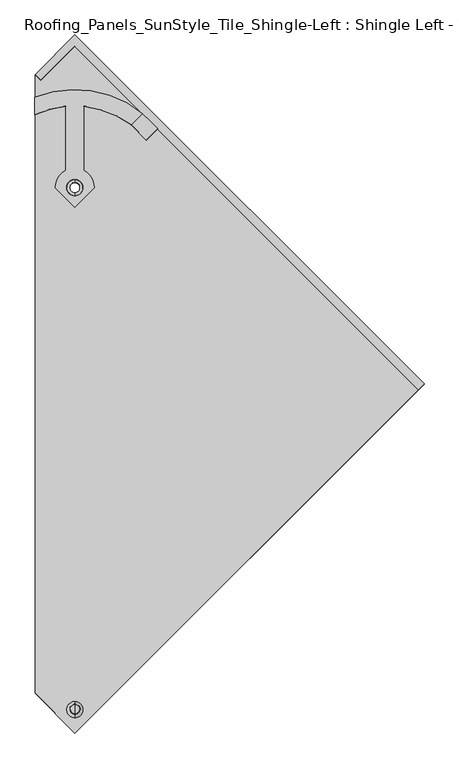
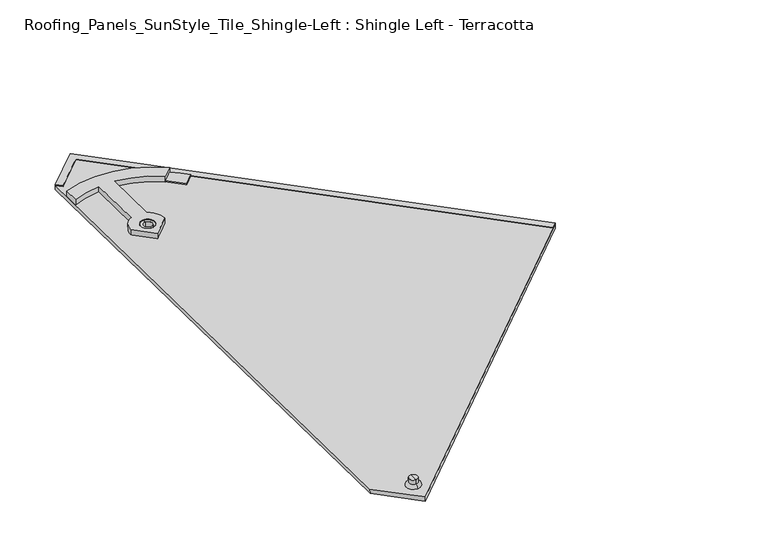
"""IFC4 building model written with IfcOpenShell, lengths in millimetres: proxy geometry, Roofing_Panels_SunStyle_Tile_Shingle-Left : Shingle Left - Terracotta."""

from ifc_helpers import new_model, si_unit, point, frame, frame_2d, origin, place, context, project, spatial, polyline, circle_curve, ellipse_curve, trimmed, segment, composite_curve, outline, extrude, source, transform, mapped, element, save
from ifc_brep_helpers import plane_surface, cylinder_surface, revolved_surface, advanced_brep


def roofing_panels_sunstyle_tile_shingle_left_shingle_left_8a958c8d(model_context):
    return source(origin(), model_context, "Body", "SolidModel", [
        advanced_brep(
        [(0.0, -497.7570319, 26.2215343), (0.0, -484.4239514, 25.9982384), (0.0, -484.7922605, 4.0063691), (0.0, -498.125341, 4.229665), (0.0, -503.2562608, 26.3136327), (0.0, -478.9247225, 25.90614), (0.0, -498.3072645, 31.2274395), (0.0, -483.7064015, 30.9829114), (0.0, -490.8728045, 39.1080636), (0.0, -483.572373, 38.9857996), (0.0, -498.173236, 39.2303277), (0.0, -491.4588007, 4.118017)],
        [
            (0, 1, circle_curve(frame((0.0, -491.0904916, 26.1098864), z_axis=(0.0, -0.016745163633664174, -0.9998597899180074), x_axis=(0.0, 0.9998597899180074, -0.016745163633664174)), 6.6674751)),
            (1, 2),
            (2, 3, circle_curve(frame((0.0, -491.4588007, 4.118017), z_axis=(0.0, 0.016745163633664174, 0.9998597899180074), x_axis=(0.0, 0.9998597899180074, -0.016745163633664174)), 6.6674751)),
            (3, 0),
            (1, 0, circle_curve(frame((0.0, -491.0904916, 26.1098864), z_axis=(0.0, -0.016745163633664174, -0.9998597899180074), x_axis=(0.0, 0.9998597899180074, -0.016745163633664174)), 6.6674751)),
            (3, 2, circle_curve(frame((0.0, -491.4588007, 4.118017), z_axis=(0.0, 0.016745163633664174, 0.9998597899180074), x_axis=(0.0, 0.9998597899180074, -0.016745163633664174)), 6.6674751)),
            (4, 5, circle_curve(frame((0.0, -491.0904916, 26.1098864), z_axis=(0.0, -0.016745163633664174, -0.9998597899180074), x_axis=(0.0, 0.9998597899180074, -0.016745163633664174)), 12.1674751)),
            (5, 1),
            (0, 4),
            (5, 4, circle_curve(frame((0.0, -491.0904916, 26.1098864), z_axis=(0.0, -0.016745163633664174, -0.9998597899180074), x_axis=(0.0, 0.9998597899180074, -0.016745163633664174)), 12.1674751)),
            (6, 7, circle_curve(frame((0.0, -491.006833, 31.1051755), z_axis=(0.0, -0.016745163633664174, -0.9998597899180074), x_axis=(0.0, 0.9998597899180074, -0.016745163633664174)), 7.3014552)),
            (7, 5, circle_curve(frame((0.0, -484.0105995, 25.90614), z_axis=(-1.0, 0.0, 0.0), x_axis=(0.0, -1.0, 0.0)), 5.0858769)),
            (4, 6, circle_curve(frame((0.0, -498.173236, 26.1433289), z_axis=(-1.0, 0.0, 0.0), x_axis=(0.0, 0.9994391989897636, -0.03348563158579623)), 5.0858769)),
            (7, 6, circle_curve(frame((0.0, -491.006833, 31.1051755), z_axis=(0.0, -0.016745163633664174, -0.9998597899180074), x_axis=(0.0, 0.9998597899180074, -0.016745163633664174)), 7.3014552)),
            (8, 9),
            (9, 10, circle_curve(frame((0.0, -490.8728045, 39.1080636), z_axis=(0.0, 0.016745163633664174, 0.9998597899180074), x_axis=(0.0, 0.9998597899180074, -0.016745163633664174)), 7.3014552)),
            (10, 8),
            (10, 9, circle_curve(frame((0.0, -490.8728045, 39.1080636), z_axis=(0.0, 0.016745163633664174, 0.9998597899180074), x_axis=(0.0, 0.9998597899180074, -0.016745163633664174)), 7.3014552)),
            (2, 11),
            (11, 3),
            (9, 7),
            (6, 10),
        ],
        [
            cylinder_surface(frame((0.0, -490.8728045, 39.1080636), z_axis=(0.0, 0.016745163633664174, 0.9998597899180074), x_axis=(0.0, 0.9998597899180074, -0.016745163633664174)), 6.6674751),
            plane_surface(frame((0.0, -491.0904916, 26.1098864), z_axis=(0.0, -0.016745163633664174, -0.9998597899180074), x_axis=(0.0, 0.9998597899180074, -0.016745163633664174))),
            revolved_surface(trimmed(ellipse_curve(frame((0.0, -484.0105995, 25.90614), z_axis=(1.0, 0.0, 0.0), x_axis=(0.0, -1.0, 0.0)), 5.0858769, 5.0858769), [point((0.0, -478.9247225, 25.90614))], [point((0.0, -483.7064015, 30.9829114))], True, "CARTESIAN"), (0.0, -490.8728045, 39.1080636), (0.0, 0.016745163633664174, 0.9998597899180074)),
            plane_surface(frame((0.0, -490.8728045, 39.1080636), z_axis=(0.0, 0.016745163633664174, 0.9998597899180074), x_axis=(0.0, 0.9998597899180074, -0.016745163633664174))),
            plane_surface(frame((0.0, -491.4588007, 4.118017), z_axis=(0.0, -0.016745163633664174, -0.9998597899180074), x_axis=(0.0, 0.9998597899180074, -0.016745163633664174))),
            cylinder_surface(frame((0.0, -490.8728045, 39.1080636), z_axis=(0.0, 0.016745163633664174, 0.9998597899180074), x_axis=(0.0, 0.9998597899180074, -0.016745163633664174)), 7.3014552),
        ],
        [
            (0, [[1, 2, 3, 4]]),
            (0, [[5, -4, 6, -2]]),
            (1, [[7, 8, -1, 9]]),
            (1, [[10, -9, -5, -8]]),
            (2, [[11, 12, -7, 13]]),
            (2, [[14, -13, -10, -12]]),
            (3, [[15, 16, 17]]),
            (3, [[-17, 18, -15]]),
            (4, [[-3, 19, 20]]),
            (4, [[-6, -20, -19]]),
            (5, [[-16, 21, -11, 22]]),
            (5, [[-18, -22, -14, -21]]),
        ],
    ),
        advanced_brep(
        [(0.0, 288.8387329, 20.2084559), (0.0, 304.1715338, 19.9516697), (0.0, 308.6709025, 19.8763164), (0.0, 284.3393642, 20.2838092), (0.0, 288.5708107, 4.2106993), (0.0, 303.9036108, 3.953913), (0.0, 284.0714416, 4.2860525), (0.0, 308.4029798, 3.8785598)],
        [
            (0, 1, circle_curve(frame((0.0, 296.5051333, 20.0800628), z_axis=(0.0, -0.016745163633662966, -0.9998597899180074), x_axis=(0.0, 0.9998597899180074, -0.016745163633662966)), 7.6674755)),
            (1, 2),
            (2, 3, circle_curve(frame((0.0, 296.5051333, 20.0800628), z_axis=(0.0, 0.016745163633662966, 0.9998597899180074), x_axis=(0.0, 0.9998597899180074, -0.016745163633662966)), 12.1674751)),
            (3, 0),
            (1, 0, circle_curve(frame((0.0, 296.5051333, 20.0800628), z_axis=(0.0, -0.016745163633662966, -0.9998597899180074), x_axis=(0.0, 0.9998597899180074, -0.016745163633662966)), 7.6674755)),
            (3, 2, circle_curve(frame((0.0, 296.5051333, 20.0800628), z_axis=(0.0, 0.016745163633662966, 0.9998597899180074), x_axis=(0.0, 0.9998597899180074, -0.016745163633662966)), 12.1674751)),
            (4, 5, circle_curve(frame((0.0, 296.2372107, 4.0823062), z_axis=(0.0, -0.016745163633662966, -0.9998597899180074), x_axis=(0.0, 0.9998597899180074, -0.016745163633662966)), 7.6674751)),
            (5, 1),
            (0, 4),
            (5, 4, circle_curve(frame((0.0, 296.2372107, 4.0823062), z_axis=(0.0, -0.016745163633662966, -0.9998597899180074), x_axis=(0.0, 0.9998597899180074, -0.016745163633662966)), 7.6674751)),
            (6, 7, circle_curve(frame((0.0, 296.2372107, 4.0823062), z_axis=(0.0, -0.016745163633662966, -0.9998597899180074), x_axis=(0.0, 0.9998597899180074, -0.016745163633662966)), 12.1674751)),
            (7, 5),
            (4, 6),
            (7, 6, circle_curve(frame((0.0, 296.2372107, 4.0823062), z_axis=(0.0, -0.016745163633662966, -0.9998597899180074), x_axis=(0.0, 0.9998597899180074, -0.016745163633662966)), 12.1674751)),
            (2, 7),
            (6, 3),
        ],
        [
            plane_surface(frame((0.0, 296.5051333, 20.0800628), z_axis=(0.0, 0.016745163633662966, 0.9998597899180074), x_axis=(0.0, 0.9998597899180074, -0.016745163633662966))),
            revolved_surface(polyline([(0.0, 304.1715333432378, 19.951669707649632), (0.0, 303.9036107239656, 3.9539130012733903)]), (0.0, 296.5051333, 20.0800628), (0.0, 0.016745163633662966, 0.9998597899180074)),
            plane_surface(frame((0.0, 296.2372107, 4.0823062), z_axis=(0.0, -0.016745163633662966, -0.9998597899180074), x_axis=(0.0, 0.9998597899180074, -0.016745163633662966))),
            cylinder_surface(frame((0.0, 296.5051333, 20.0800628), z_axis=(0.0, 0.016745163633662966, 0.9998597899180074), x_axis=(0.0, 0.9998597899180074, -0.016745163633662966)), 12.1674751),
        ],
        [
            (0, [[1, 2, 3, 4]]),
            (0, [[5, -4, 6, -2]]),
            (1, [[7, 8, -1, 9]]),
            (1, [[10, -9, -5, -8]]),
            (2, [[11, 12, -7, 13]]),
            (2, [[14, -13, -10, -12]]),
            (3, [[-3, 15, -11, 16]]),
            (3, [[-6, -16, -14, -15]]),
        ],
    ),
        extrude(outline(polyline([(0.0, -12.0000001), (0.0, 0.0), (732.9494561, 0.0), (732.9596915, 72.9952669), (744.9596913, 72.9935844), (744.9477736, -12.0), (0.0, -12.0000001)])), frame((518.3098655, -8.2117179, 16.4411501), z_axis=(0.0, 0.016745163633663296, 0.9998597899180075), x_axis=(-0.7071563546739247, 0.7069580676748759, -0.011839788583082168)), (0.0, 0.0, 1.0), 1.5),
        extrude(outline(polyline([(932.8194545, 0.0), (932.923911, -744.9477663), (187.9761374, -744.9477663), (187.9642196, -659.9541819), (847.8258692, 0.0), (932.8194545, 0.0)]), holes=[composite_curve([segment(trimmed(circle_curve(frame_2d((212.9253223, -719.9427176)), 8.0), [point((207.2680714, -714.2862599))], [point((218.5825731, -725.5991752))], True, "CARTESIAN"), True, "CONTINUOUS"), segment(trimmed(circle_curve(frame_2d((212.9253223, -719.9427176)), 8.0), [point((218.5825731, -725.5991752))], [point((207.2680714, -714.2862599))], True, "CARTESIAN"), True, "CONTINUOUS")], self_intersect=False), composite_curve([segment(trimmed(circle_curve(frame_2d((770.0336709, -162.7844939)), 12.0), [point((761.5477946, -154.2998074))], [point((778.5195471, -171.2691803))], True, "CARTESIAN"), True, "CONTINUOUS"), segment(trimmed(circle_curve(frame_2d((770.0336709, -162.7844939)), 12.0), [point((778.5195471, -171.2691803))], [point((761.5477946, -154.2998074))], True, "CARTESIAN"), True, "CONTINUOUS")], self_intersect=False)]), frame((-659.649205, -132.6700206, 11.0244653), z_axis=(0.0, 0.01674516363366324, 0.9998597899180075), x_axis=(0.7071563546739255, 0.7069580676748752, -0.011839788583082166)), (0.0, 0.0, 1.0), 7.5),
        advanced_brep(
        [(-60.2957265, 433.0026731, 19.0533092), (-60.2957265, 406.2764405, 19.5009071), (-13.4919726, 419.1243502, 19.2857365), (-13.4919726, 322.7165495, 20.9003273), (-29.5814007, 296.5124298, 21.3391811), (-0.1919726, 267.1271225, 21.8313119), (29.1974554, 296.5124298, 21.3391811), (13.1080274, 322.7165495, 20.9003273), (13.1080274, 419.1243502, 19.2857365), (84.7524234, 391.23244, 19.7528566), (101.8355992, 408.3132205, 19.4667961), (-12.1919726, 296.5124298, 21.3391811), (11.8080274, 296.5124298, 21.3391811), (-60.2957265, 432.8352215, 9.0547113), (101.8355992, 408.1457689, 9.4681982), (101.362882, 407.673118, 9.4761139), (113.6848706, 396.5594805, 9.6622397), (125.0242483, 385.2232824, 9.8520928), (108.0270978, 368.2285151, 10.1367128), (84.9693798, 391.2830001, 9.7506076), (84.7524234, 391.0649884, 9.7542587), (13.1080274, 418.9568985, 9.2871386), (13.1080274, 322.5490979, 10.9017294), (29.1974554, 296.3449782, 11.3405832), (-0.1919726, 266.9596708, 11.832714), (-29.5814007, 296.3449782, 11.3405832), (-13.4919726, 322.5490979, 10.9017294), (-13.4919726, 418.9568985, 9.2871386), (-60.2957265, 406.1089889, 9.5023092), (-12.1919726, 296.3449782, 11.3405832), (11.8080274, 296.3449782, 11.3405832), (125.0242483, 385.2651453, 12.3517423), (113.6848706, 396.6013434, 12.1618891), (101.3635509, 407.7144372, 11.9757725), (84.9699228, 391.3243202, 12.2502662), (108.0270978, 368.270378, 12.6363623)],
        [
            (0, 1),
            (1, 2, circle_curve(frame((-0.1919726, 279.0363215, 21.6318625), z_axis=(0.0, -0.01674516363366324, -0.9998597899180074), x_axis=(1.0, 0.0, 0.0)), 140.737522)),
            (2, 3),
            (3, 4, circle_curve(frame((-0.1919726, 296.5124298, 21.3391811), z_axis=(0.0, 0.01674516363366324, 0.9998597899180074), x_axis=(1.0, 0.0, 0.0)), 29.3894281)),
            (4, 5),
            (5, 6),
            (6, 7, circle_curve(frame((-0.1919726, 296.5124298, 21.3391811), z_axis=(0.0, 0.01674516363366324, 0.9998597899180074), x_axis=(1.0, 0.0, 0.0)), 29.3894281)),
            (7, 8),
            (8, 9, circle_curve(frame((-0.1919726, 279.0363215, 21.6318625), z_axis=(0.0, -0.01674516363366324, -0.9998597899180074), x_axis=(1.0, 0.0, 0.0)), 140.737522)),
            (9, 10),
            (10, 0, circle_curve(frame((-0.1919726, 283.0433477, 21.5647547), z_axis=(0.0, 0.01674516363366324, 0.9998597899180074), x_axis=(1.0, 0.0, 0.0)), 161.57527)),
            (11, 12, circle_curve(frame((-0.1919726, 296.5124298, 21.3391811), z_axis=(0.0, -0.01674516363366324, -0.9998597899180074), x_axis=(1.0, 0.0, 0.0)), 12.0)),
            (12, 11, circle_curve(frame((-0.1919726, 296.5124298, 21.3391811), z_axis=(0.0, -0.01674516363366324, -0.9998597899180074), x_axis=(1.0, 0.0, 0.0)), 12.0)),
            (13, 14, circle_curve(frame((-0.1919726, 282.8758961, 11.5661568), z_axis=(0.0, -0.01674516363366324, -0.9998597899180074), x_axis=(1.0, 0.0, 0.0)), 161.57527)),
            (14, 15),
            (15, 16, circle_curve(frame((-0.5580881, 282.3165218, 11.575525), z_axis=(0.0, -0.01674516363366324, -0.9998597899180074), x_axis=(1.0, 0.0, 0.0)), 161.57527)),
            (16, 17),
            (17, 18),
            (18, 19),
            (19, 20),
            (20, 21, circle_curve(frame((-0.1919726, 278.8688698, 11.6332646), z_axis=(0.0, 0.01674516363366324, 0.9998597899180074), x_axis=(1.0, 0.0, 0.0)), 140.737522)),
            (21, 22),
            (22, 23, circle_curve(frame((-0.1919726, 296.3449782, 11.3405832), z_axis=(0.0, -0.01674516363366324, -0.9998597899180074), x_axis=(1.0, 0.0, 0.0)), 29.3894281)),
            (23, 24),
            (24, 25),
            (25, 26, circle_curve(frame((-0.1919726, 296.3449782, 11.3405832), z_axis=(0.0, -0.01674516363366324, -0.9998597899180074), x_axis=(1.0, 0.0, 0.0)), 29.3894281)),
            (26, 27),
            (27, 28, circle_curve(frame((-0.1919726, 278.8688698, 11.6332646), z_axis=(0.0, 0.01674516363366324, 0.9998597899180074), x_axis=(1.0, 0.0, 0.0)), 140.737522)),
            (28, 13),
            (29, 30, circle_curve(frame((-0.1919726, 296.3449782, 11.3405832), z_axis=(0.0, 0.01674516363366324, 0.9998597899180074), x_axis=(1.0, 0.0, 0.0)), 12.0)),
            (30, 29, circle_curve(frame((-0.1919726, 296.3449782, 11.3405832), z_axis=(0.0, 0.01674516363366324, 0.9998597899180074), x_axis=(1.0, 0.0, 0.0)), 12.0)),
            (2, 27),
            (26, 3),
            (25, 4),
            (24, 5),
            (23, 6),
            (22, 7),
            (21, 8),
            (10, 14),
            (13, 0),
            (11, 29),
            (30, 12),
            (31, 32),
            (32, 33, circle_curve(frame((-0.5580881, 282.3583847, 14.0751744), z_axis=(0.0, 0.01674516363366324, 0.9998597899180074), x_axis=(1.0, 0.0, 0.0)), 161.57527)),
            (33, 34),
            (34, 35),
            (35, 31),
            (31, 17),
            (16, 32),
            (35, 18),
            (15, 33),
            (34, 19),
            (9, 20),
            (1, 28),
        ],
        [
            plane_surface(frame((-60.2957265, 468.3766789, 18.4608826), z_axis=(0.0, 0.01674516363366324, 0.9998597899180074), x_axis=(0.0, -0.9998597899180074, 0.01674516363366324))),
            plane_surface(frame((-60.2957265, 468.2092272, 8.4622847), z_axis=(0.0, -0.01674516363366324, -0.9998597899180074), x_axis=(0.0, 0.9998597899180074, -0.01674516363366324))),
            plane_surface(frame((-13.4919726, 419.1243502, 19.2857365), z_axis=(-1.0000000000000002, 0.0, 0.0), x_axis=(0.0, -0.01674516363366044, -0.9998597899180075))),
            cylinder_surface(frame((-0.1919726, 296.3449782, 11.3405832), z_axis=(0.0, 0.01674516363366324, 0.9998597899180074), x_axis=(1.0, 0.0, 0.0)), 29.3894281),
            plane_surface(frame((-29.5814007, 296.5124298, 21.3391811), z_axis=(-0.7071067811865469, -0.7070076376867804, 0.011840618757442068), x_axis=(0.0, -0.016745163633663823, -0.9998597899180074))),
            plane_surface(frame((-0.1919726, 267.1271225, 21.8313119), z_axis=(0.7071067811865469, -0.7070076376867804, 0.011840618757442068), x_axis=(0.0, -0.016745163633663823, -0.9998597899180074))),
            plane_surface(frame((13.1080274, 322.7165495, 20.9003273), z_axis=(1.0000000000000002, 0.0, 0.0), x_axis=(0.0, -0.016745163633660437, -0.9998597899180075))),
            cylinder_surface(frame((-0.1919726, 282.8758961, 11.5661568), z_axis=(0.0, 0.01674516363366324, 0.9998597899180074), x_axis=(1.0, 0.0, 0.0)), 161.57527),
            revolved_surface(polyline([(11.8080274, 296.3449782, 11.3405832), (11.8080274, 296.5124298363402, 21.339181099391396)]), (-0.1919726, 296.3449782, 11.3405832), (0.0, -0.01674516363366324, -0.9998597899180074)),
            plane_surface(frame((128.2926527, 381.9976574, 12.4064645), z_axis=(0.0, 0.01674516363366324, 0.9998597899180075), x_axis=(-0.7071563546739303, 0.7069580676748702, -0.011839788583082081))),
            plane_surface(frame((125.0242483, 385.2651453, 12.3517423), z_axis=(0.707057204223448, 0.70705720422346, -0.011841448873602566), x_axis=(0.0, -0.016745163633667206, -0.9998597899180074))),
            plane_surface(frame((108.0270978, 368.270378, 12.6363623), z_axis=(0.707106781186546, -0.7070076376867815, 0.01184061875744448), x_axis=(0.0, -0.016745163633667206, -0.9998597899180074))),
            cylinder_surface(frame((-0.5580881, 282.3165218, 11.575525), z_axis=(0.0, 0.01674516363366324, 0.9998597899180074), x_axis=(1.0, 0.0, 0.0)), 161.57527),
            plane_surface(frame((84.9693798, 391.324863, 12.2502571), z_axis=(-0.7071067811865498, -0.7070076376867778, 0.011840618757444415), x_axis=(0.0, -0.016745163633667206, -0.9998597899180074))),
            plane_surface(frame((84.7524234, 391.23244, 19.7528566), z_axis=(0.7071067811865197, -0.707007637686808, 0.011840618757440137), x_axis=(0.0, -0.016745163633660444, -0.9998597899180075))),
            revolved_surface(polyline([(140.5455494, 278.8688697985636, 11.633264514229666), (140.5455494, 279.0363214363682, 21.631862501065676)]), (-0.1919726, 278.8688698, 11.6332646), (0.0, -0.01674516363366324, -0.9998597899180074)),
            plane_surface(frame((-60.2957265, 433.0026731, 19.0533092), z_axis=(-1.0000000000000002, 0.0, 0.0), x_axis=(0.0, -0.01674516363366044, -0.9998597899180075))),
        ],
        [
            (0, [[1, 2, 3, 4, 5, 6, 7, 8, 9, 10, 11], [12, 13]]),
            (1, [[14, 15, 16, 17, 18, 19, 20, 21, 22, 23, 24, 25, 26, 27, 28, 29], [30, 31]]),
            (2, [[-3, 32, -27, 33]]),
            (3, [[-4, -33, -26, 34]]),
            (4, [[-5, -34, -25, 35]]),
            (5, [[-6, -35, -24, 36]]),
            (3, [[-7, -36, -23, 37]]),
            (6, [[-8, -37, -22, 38]]),
            (7, [[-11, 39, -14, 40]]),
            (8, [[-12, 41, -31, 42]]),
            (8, [[-13, -42, -30, -41]]),
            (9, [[43, 44, 45, 46, 47]]),
            (10, [[-43, 48, -17, 49]]),
            (11, [[-47, 50, -18, -48]]),
            (12, [[-44, -49, -16, 51]]),
            (13, [[-46, 52, -19, -50]]),
            (14, [[-10, 53, -20, -52, -45, -51, -15, -39]]),
            (15, [[-2, 54, -28, -32]]),
            (15, [[-9, -38, -21, -53]]),
            (16, [[-1, -40, -29, -54]]),
        ],
    ),
    ])


if __name__ == "__main__":
    model = new_model("IFC4")
    model_context = context("Model", 3, world=origin())
    ifc_project = project(units=[si_unit("LENGTHUNIT", "METRE", prefix="MILLI")], contexts=[model_context])
    site = spatial("IfcSite", under=ifc_project)
    building = spatial("IfcBuilding", under=site)
    placement = place(None, origin())
    roofing_panels_sunstyle_tile_shingle_left_shingle_left_shape = roofing_panels_sunstyle_tile_shingle_left_shingle_left_8a958c8d(model_context)
    element("IfcBuildingElementProxy", 1, Name="Roofing_Panels_SunStyle_Tile_Shingle-Left : Shingle Left - Terracotta", ObjectType="Roofing_Panels_SunStyle_Tile_Shingle-Left : Shingle Left - Terracotta", at=placement, inside=building, context=model_context, shape_type="MappedRepresentation", body=[
        mapped(roofing_panels_sunstyle_tile_shingle_left_shingle_left_shape, transform((0.0, 0.0, 0.0), x_axis=(1.0, 0.0, 0.0), y_axis=(0.0, 1.0, 0.0), z_axis=(0.0, 0.0, 1.0))),
    ])
    save(model, "model.ifc")
